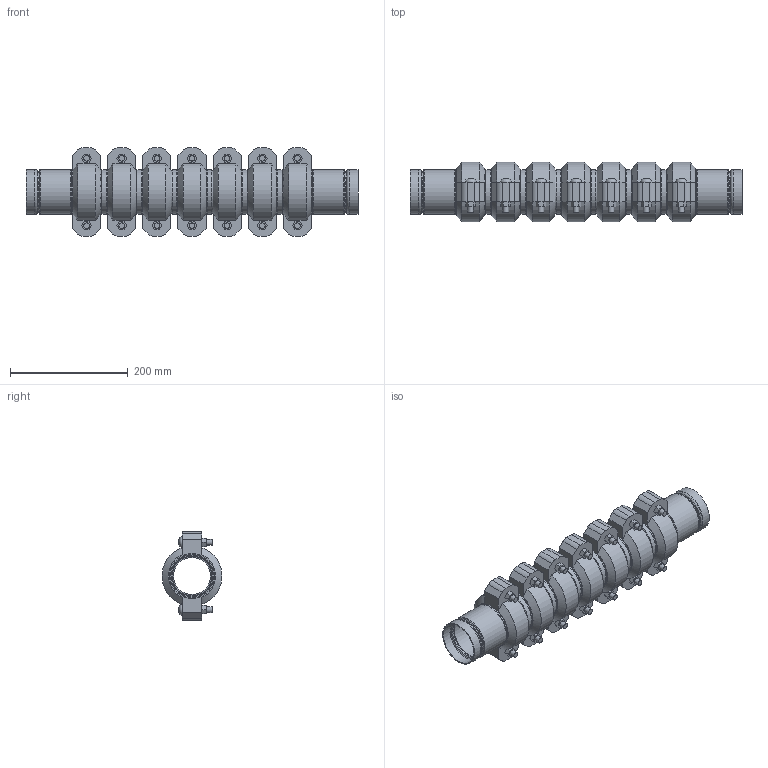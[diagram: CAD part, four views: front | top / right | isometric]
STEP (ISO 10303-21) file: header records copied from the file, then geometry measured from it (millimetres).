
FILE_DESCRIPTION(/* description */ ('VIC STRENGTHIN 100 EXPANSION JOINT 7 COUPLINGS NEUTRAL STYLE E155 (ST1)','CAx-IF Rec.Pracs.---Representation and Presentation of Product Manufacturing Information (PMI)---4.0---2014-10-13'),/* implementation_level */ '2;1');
FILE_NAME(/* name */ 'C:\Users\Vjadhav\AppData\Roaming\Autodesk\ApplicationPlugins\Victaulic.Temp\A857\Victaulic_SS-StrengThin 100_Expansion Joint_Neutral_7 Couplings_Style E155 (ST1)_7 Coup_Neut_02.5 (76.1) (65).stp',/* time_stamp */ '2021-07-20T17:49:44+05:00',/* author */ ('kkamble'),/* organization */ ('Victaulic'),/* preprocessor_version */ 'ST-DEVELOPER v17.2',/* originating_system */ 'Autodesk Inventor 2019',/* authorisation */ '');
FILE_SCHEMA (('AP242_MANAGED_MODEL_BASED_3D_ENGINEERING_MIM_LF { 1 0 10303 442 1 1 4 }'));
Length unit declared in the file: inch
Products named in the file (4): E155-02.5 (76.1); E494G-02.5 (76.1); Nipple-02.5 (76.1); 075-02.5 (76.1)
Assembly tree (15 placements, depth 2):
  E155-02.5 (76.1)
    E494G-02.5 (76.1)  x2
    Nipple-02.5 (76.1)  x6
    075-02.5 (76.1)  x7
Bounding box: 562.86 x 101.25 x 149.86 mm (x, y, z)
Volume: 2080110.4 mm3; surface area: 595314 mm2
Topology: 15 solids, 29 shells, 539 faces, 1361 edges, 954 vertices
Faces by surface type: plane 300, cylinder 161, torus 32, cone 32, bspline 14
Full cylindrical faces by diameter (mm): 9.525 x28, 11.43 x14, 62.713 x6, 67.158 x2, 69.063 x2, 69.85 x7, 70.358 x2, 72.263 x14, 73 x6, 76.2 x38
Entity records: 3832 total; most frequent: CARTESIAN_POINT 693, DIRECTION 675, ORIENTED_EDGE 556, AXIS2_PLACEMENT_3D 287, EDGE_CURVE 278, VERTEX_POINT 199, CIRCLE 167, EDGE_LOOP 127
